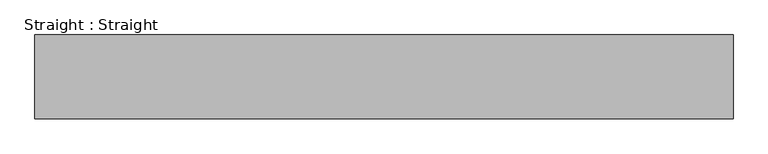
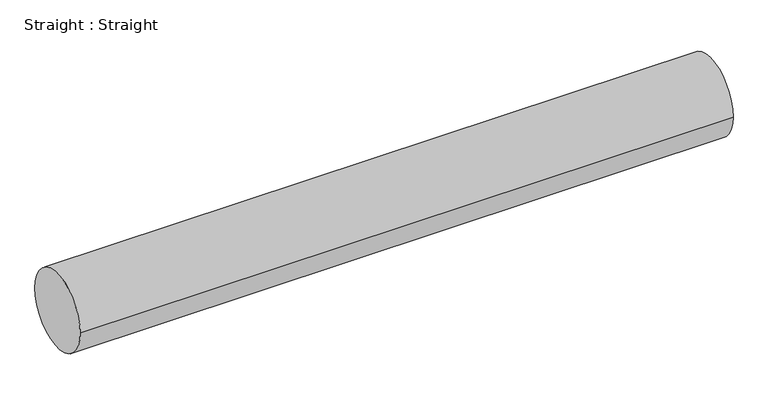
"""IFC4 building model written with IfcOpenShell, lengths in millimetres: proxy geometry, Straight : Straight."""

from ifc_helpers import new_model, si_unit, point, frame, frame_2d, origin, place, context, project, spatial, circle_curve, trimmed, segment, composite_curve, outline, extrude, source, transform, mapped, element, save


def straight_straight_62cc420e(model_context):
    return source(origin(), model_context, "Body", "SweptSolid", [
        extrude(outline(composite_curve([segment(trimmed(circle_curve(frame_2d((-7075.2851486, 0.0)), 160.0), [point((-7235.2851486, 0.0))], [point((-6915.2851486, 0.0))], False, "CARTESIAN"), True, "CONTINUOUS"), segment(trimmed(circle_curve(frame_2d((-7075.2851486, 0.0)), 160.0), [point((-6915.2851486, 0.0))], [point((-7235.2851486, 0.0))], False, "CARTESIAN"), True, "CONTINUOUS")], self_intersect=False)), frame((18253.0643011, 0.0, 0.0), z_axis=(1.0, 0.0, 0.0), x_axis=(0.0, 1.0, 0.0)), (0.0, 0.0, 1.0), 2660.0),
    ])


if __name__ == "__main__":
    model = new_model("IFC4")
    model_context = context("Model", 3, world=origin())
    ifc_project = project(units=[si_unit("LENGTHUNIT", "METRE", prefix="MILLI")], contexts=[model_context])
    site = spatial("IfcSite", under=ifc_project)
    building = spatial("IfcBuilding", under=site)
    placement = place(None, origin())
    straight_straight_shape = straight_straight_62cc420e(model_context)
    element("IfcBuildingElementProxy", 1, Name="Straight : Straight", ObjectType="Straight : Straight", at=placement, inside=building, context=model_context, shape_type="MappedRepresentation", body=[
        mapped(straight_straight_shape, transform((0.0, 0.0, 0.0), x_axis=(1.0, 0.0, 0.0), y_axis=(0.0, 1.0, 0.0), z_axis=(0.0, 0.0, 1.0))),
    ])
    save(model, "model.ifc")
